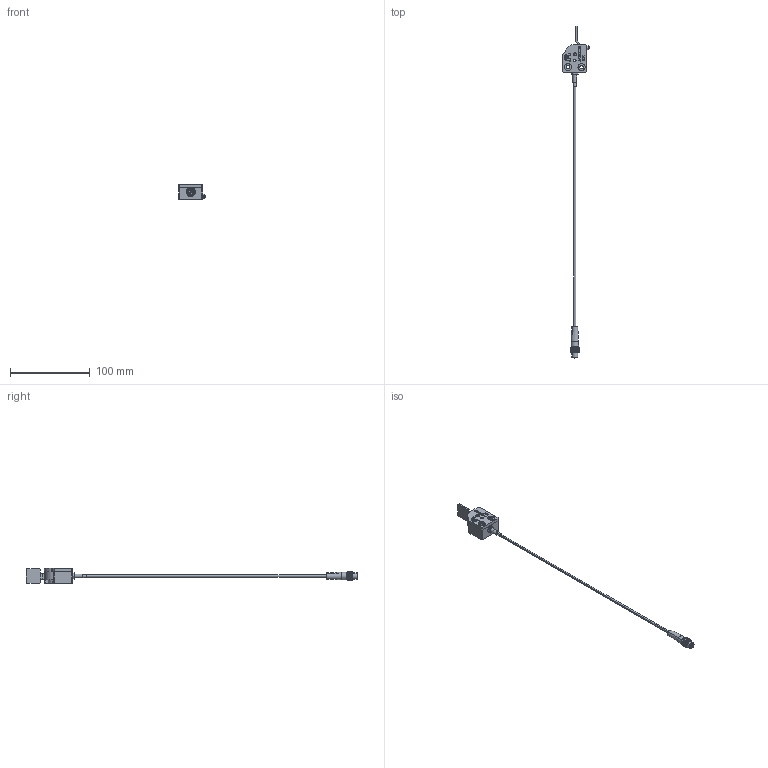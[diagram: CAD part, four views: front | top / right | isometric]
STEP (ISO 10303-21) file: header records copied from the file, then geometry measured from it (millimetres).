
FILE_DESCRIPTION (( 'STEP AP214' ), '1' );
FILE_NAME ('FC-1-A-Tooling.step', '2022-05-16T06:44:19', ( '' ), ( '' ), 'SwSTEP 2.0', 'SolidWorks 2010', '' );
FILE_SCHEMA (( 'AUTOMOTIVE_DESIGN' ));
Length unit declared in the file: millimetre
Products named in the file (11): Fj  fc1(Default); 4392_4__3196597-mattssons; 09134___3_10-mattssons; I45000112_givare; CPK-5,0-m6x16-A-Tooling; 798408__3__8-mattssons; FC-1_Vridplatta; FC-1_Hus; FC-1_Lock; FC1_Pl廞_givare(Default); FC-1-A-Tooling
Assembly tree (11 placements, depth 2):
  FC-1-A-Tooling
    4392_4__3196597-mattssons
    798408__3__8-mattssons  x2
    Fj  fc1(Default)
    FC-1_Vridplatta
    FC-1_Hus
    CPK-5,0-m6x16-A-Tooling
    I45000112_givare
    09134___3_10-mattssons
    FC-1_Lock
    FC1_Pl廞_givare(Default)
Bounding box: 33 x 416.06 x 19 mm (x, y, z)
Volume: 15170.5 mm3; surface area: 16508.5 mm2
Topology: 10 solids, 16 shells, 1192 faces, 2786 edges, 1676 vertices
Faces by surface type: plane 336, cone 278, cylinder 272, torus 222, bspline 80, sphere 4
Entity records: 36884 total; most frequent: CARTESIAN_POINT 12511, DIRECTION 5179, ORIENTED_EDGE 4844, EDGE_CURVE 2424, AXIS2_PLACEMENT_3D 2002, VERTEX_POINT 1496, LINE 1175, VECTOR 1175
